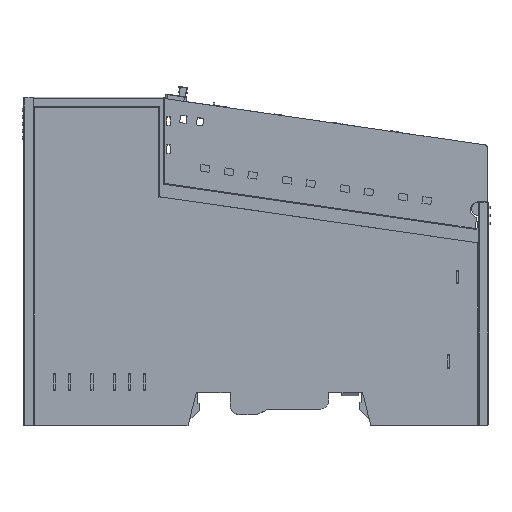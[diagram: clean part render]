
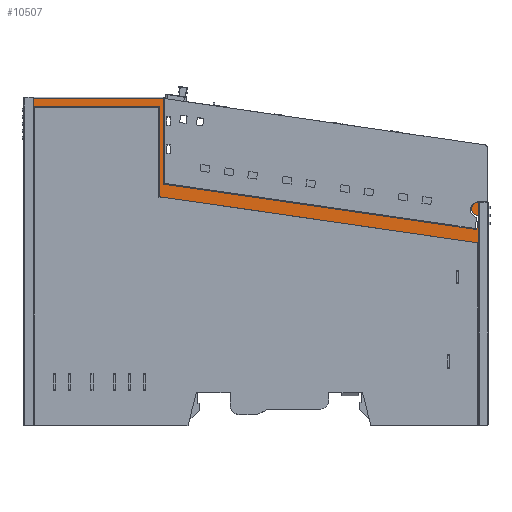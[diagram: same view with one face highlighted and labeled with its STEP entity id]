
A CAD part, top view. The second image highlights one B-rep face of the part: STEP entity #10507.
In plain terms, the highlighted planar face has unit normal (0, 0, 1).
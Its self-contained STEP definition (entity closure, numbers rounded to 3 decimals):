
#1=DIRECTION('',(-1.,0.,0.));
#2=VECTOR('',#1,27.);
#3=CARTESIAN_POINT('',(29.,68.,0.));
#4=LINE('',#3,#2);
#5=DIRECTION('',(0.,-1.,0.));
#6=VECTOR('',#5,68.);
#7=CARTESIAN_POINT('',(2.,68.,0.));
#8=LINE('',#7,#6);
#9=DIRECTION('',(-1.,0.,0.));
#10=VECTOR('',#9,1.);
#11=CARTESIAN_POINT('',(2.,0.,0.));
#12=LINE('',#11,#10);
#13=DIRECTION('',(0.99,-0.143,0.));
#14=VECTOR('',#13,67.48);
#15=CARTESIAN_POINT('',(29.8,51.427,0.));
#16=LINE('',#15,#14);
#17=DIRECTION('',(0.14,0.99,0.));
#18=VECTOR('',#17,2.981);
#19=CARTESIAN_POINT('',(96.582,41.748,0.));
#20=LINE('',#19,#18);
#21=CARTESIAN_POINT('',(97.,46.2,0.));
#22=DIRECTION('',(0.,0.,-1.));
#23=DIRECTION('',(0.,-1.,0.));
#24=AXIS2_PLACEMENT_3D('',#21,#22,#23);
#26=CARTESIAN_POINT('',(97.,46.2,0.));
#27=DIRECTION('',(0.,0.,-1.));
#28=DIRECTION('',(-1.,0.,0.));
#29=AXIS2_PLACEMENT_3D('',#26,#27,#28);
#31=DIRECTION('',(1.,0.,0.));
#32=VECTOR('',#31,1.);
#33=CARTESIAN_POINT('',(97.,47.7,0.));
#34=LINE('',#33,#32);
#35=DIRECTION('',(0.,-1.,0.));
#36=VECTOR('',#35,47.7);
#37=CARTESIAN_POINT('',(98.,47.7,0.));
#38=LINE('',#37,#36);
#39=DIRECTION('',(-1.,0.,0.));
#40=VECTOR('',#39,1.);
#41=CARTESIAN_POINT('',(98.,0.,0.));
#42=LINE('',#41,#40);
#43=DIRECTION('',(0.,1.,0.));
#44=VECTOR('',#43,38.889);
#45=CARTESIAN_POINT('',(97.,0.,0.));
#46=LINE('',#45,#44);
#47=DIRECTION('',(-0.99,0.143,0.));
#48=VECTOR('',#47,68.71);
#49=CARTESIAN_POINT('',(97.,38.889,0.));
#50=LINE('',#49,#48);
#51=DIRECTION('',(0.,-1.,0.));
#52=VECTOR('',#51,19.256);
#53=CARTESIAN_POINT('',(29.,68.,0.));
#54=LINE('',#53,#52);
#431=DIRECTION('',(0.,1.,0.));
#432=VECTOR('',#431,18.373);
#433=CARTESIAN_POINT('',(29.8,51.427,0.));
#434=LINE('',#433,#432);
#587=DIRECTION('',(-1.,0.,0.));
#588=VECTOR('',#587,28.8);
#589=CARTESIAN_POINT('',(29.8,69.8,0.));
#590=LINE('',#589,#588);
#591=DIRECTION('',(0.,-1.,0.));
#592=VECTOR('',#591,69.8);
#593=CARTESIAN_POINT('',(1.,69.8,0.));
#594=LINE('',#593,#592);
#7985=CARTESIAN_POINT('',(29.,68.,0.));
#7986=CARTESIAN_POINT('',(29.,48.744,0.));
#7987=VERTEX_POINT('',#7985);
#7988=VERTEX_POINT('',#7986);
#7989=CARTESIAN_POINT('',(2.,68.,0.));
#7990=VERTEX_POINT('',#7989);
#7991=CARTESIAN_POINT('',(2.,0.,0.));
#7992=VERTEX_POINT('',#7991);
#7993=CARTESIAN_POINT('',(1.,0.,0.));
#7994=VERTEX_POINT('',#7993);
#7995=CARTESIAN_POINT('',(1.,69.8,0.));
#7996=VERTEX_POINT('',#7995);
#7997=CARTESIAN_POINT('',(29.8,69.8,0.));
#7998=VERTEX_POINT('',#7997);
#7999=CARTESIAN_POINT('',(29.8,51.427,0.));
#8000=VERTEX_POINT('',#7999);
#8001=CARTESIAN_POINT('',(96.582,41.748,0.));
#8002=VERTEX_POINT('',#8001);
#8003=CARTESIAN_POINT('',(97.,44.7,0.));
#8004=VERTEX_POINT('',#8003);
#8005=CARTESIAN_POINT('',(95.5,46.2,0.));
#8006=CARTESIAN_POINT('',(97.,47.7,0.));
#8007=VERTEX_POINT('',#8005);
#8008=VERTEX_POINT('',#8006);
#8009=CARTESIAN_POINT('',(98.,47.7,0.));
#8010=VERTEX_POINT('',#8009);
#8011=CARTESIAN_POINT('',(98.,0.,0.));
#8012=VERTEX_POINT('',#8011);
#8013=CARTESIAN_POINT('',(97.,0.,0.));
#8014=VERTEX_POINT('',#8013);
#8015=CARTESIAN_POINT('',(97.,38.889,0.));
#8016=VERTEX_POINT('',#8015);
#10468=CARTESIAN_POINT('',(0.,0.,0.));
#10469=DIRECTION('',(0.,0.,1.));
#10470=DIRECTION('',(1.,0.,0.));
#10471=AXIS2_PLACEMENT_3D('',#10468,#10469,#10470);
#10472=PLANE('',#10471);
#10474=ORIENTED_EDGE('',*,*,#10473,.F.);
#10476=ORIENTED_EDGE('',*,*,#10475,.T.);
#10478=ORIENTED_EDGE('',*,*,#10477,.T.);
#10480=ORIENTED_EDGE('',*,*,#10479,.T.);
#10482=ORIENTED_EDGE('',*,*,#10481,.F.);
#10484=ORIENTED_EDGE('',*,*,#10483,.F.);
#10486=ORIENTED_EDGE('',*,*,#10485,.F.);
#10488=ORIENTED_EDGE('',*,*,#10487,.T.);
#10490=ORIENTED_EDGE('',*,*,#10489,.T.);
#10492=ORIENTED_EDGE('',*,*,#10491,.T.);
#10494=ORIENTED_EDGE('',*,*,#10493,.T.);
#10496=ORIENTED_EDGE('',*,*,#10495,.T.);
#10498=ORIENTED_EDGE('',*,*,#10497,.T.);
#10500=ORIENTED_EDGE('',*,*,#10499,.T.);
#10502=ORIENTED_EDGE('',*,*,#10501,.T.);
#10504=ORIENTED_EDGE('',*,*,#10503,.T.);
#10505=EDGE_LOOP('',(#10474,#10476,#10478,#10480,#10482,#10484,#10486,#10488,
#10490,#10492,#10494,#10496,#10498,#10500,#10502,#10504));
#10506=FACE_OUTER_BOUND('',#10505,.F.);
#10507=ADVANCED_FACE('',(#10506),#10472,.T.);
#25=CIRCLE('',#24,1.5);
#30=CIRCLE('',#29,1.5);
#10473=EDGE_CURVE('',#7987,#7988,#54,.T.);
#10475=EDGE_CURVE('',#7987,#7990,#4,.T.);
#10477=EDGE_CURVE('',#7990,#7992,#8,.T.);
#10479=EDGE_CURVE('',#7992,#7994,#12,.T.);
#10481=EDGE_CURVE('',#7996,#7994,#594,.T.);
#10483=EDGE_CURVE('',#7998,#7996,#590,.T.);
#10485=EDGE_CURVE('',#8000,#7998,#434,.T.);
#10487=EDGE_CURVE('',#8000,#8002,#16,.T.);
#10489=EDGE_CURVE('',#8002,#8004,#20,.T.);
#10491=EDGE_CURVE('',#8004,#8007,#25,.T.);
#10493=EDGE_CURVE('',#8007,#8008,#30,.T.);
#10495=EDGE_CURVE('',#8008,#8010,#34,.T.);
#10497=EDGE_CURVE('',#8010,#8012,#38,.T.);
#10499=EDGE_CURVE('',#8012,#8014,#42,.T.);
#10501=EDGE_CURVE('',#8014,#8016,#46,.T.);
#10503=EDGE_CURVE('',#8016,#7988,#50,.T.);
